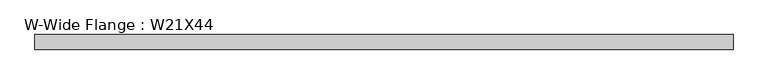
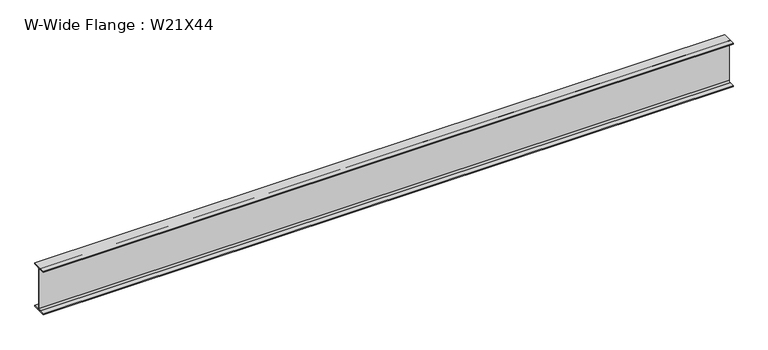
"""IFC4 building model written with IfcOpenShell, lengths in millimetres: beam geometry, W-Wide Flange : W21X44."""

from ifc_helpers import new_model, si_unit, point, frame, frame_2d, origin, place, context, project, spatial, polyline, circle_curve, trimmed, segment, composite_curve, outline, extrude, source, transform, mapped, element, save


def w_wide_flange_w21x44_6d4e9764(model_context):
    return source(origin(), model_context, "Body", "SweptSolid", [
        extrude(outline(composite_curve([segment(polyline([(82.55, -251.46), (82.55, -262.89), (-82.55, -262.89), (-82.55, -251.46), (-21.59, -251.46)]), True, "CONTINUOUS"), segment(trimmed(circle_curve(frame_2d((-21.59, -234.315)), 17.145), [point((-21.59, -251.46))], [point((-4.445, -234.315))], True, "CARTESIAN"), True, "CONTINUOUS"), segment(polyline([(-4.445, -234.315), (-4.445, 234.315)]), True, "CONTINUOUS"), segment(trimmed(circle_curve(frame_2d((-21.59, 234.315)), 17.145), [point((-4.445, 234.315))], [point((-21.59, 251.46))], True, "CARTESIAN"), True, "CONTINUOUS"), segment(polyline([(-21.59, 251.46), (-82.55, 251.46), (-82.55, 262.89), (82.55, 262.89), (82.55, 251.46), (21.59, 251.46)]), True, "CONTINUOUS"), segment(trimmed(circle_curve(frame_2d((21.59, 234.315)), 17.145), [point((21.59, 251.46))], [point((4.445, 234.315))], True, "CARTESIAN"), True, "CONTINUOUS"), segment(polyline([(4.445, 234.315), (4.445, -234.315)]), True, "CONTINUOUS"), segment(trimmed(circle_curve(frame_2d((21.59, -234.315)), 17.145), [point((4.445, -234.315))], [point((21.59, -251.46))], True, "CARTESIAN"), True, "CONTINUOUS"), segment(polyline([(21.59, -251.46), (82.55, -251.46)]), True, "CONTINUOUS")], self_intersect=False)), frame((-3910.3386404, 0.0, 0.0), z_axis=(1.0, 0.0, 0.0), x_axis=(0.0, 1.0, 0.0)), (0.0, 0.0, 1.0), 7881.257187),
    ])


if __name__ == "__main__":
    model = new_model("IFC4")
    model_context = context("Model", 3, world=origin())
    ifc_project = project(units=[si_unit("LENGTHUNIT", "METRE", prefix="MILLI")], contexts=[model_context])
    site = spatial("IfcSite", under=ifc_project)
    building = spatial("IfcBuilding", under=site)
    placement = place(None, origin())
    w_wide_flange_w21x44_shape = w_wide_flange_w21x44_6d4e9764(model_context)
    element("IfcBeam", 1, ObjectType="W-Wide Flange : W21X44", at=placement, inside=building, context=model_context, shape_type="MappedRepresentation", body=[
        mapped(w_wide_flange_w21x44_shape, transform((0.0, 0.0, 0.0), x_axis=(1.0, 0.0, 0.0), y_axis=(0.0, 1.0, 0.0), z_axis=(0.0, 0.0, 1.0))),
    ])
    save(model, "model.ifc")
